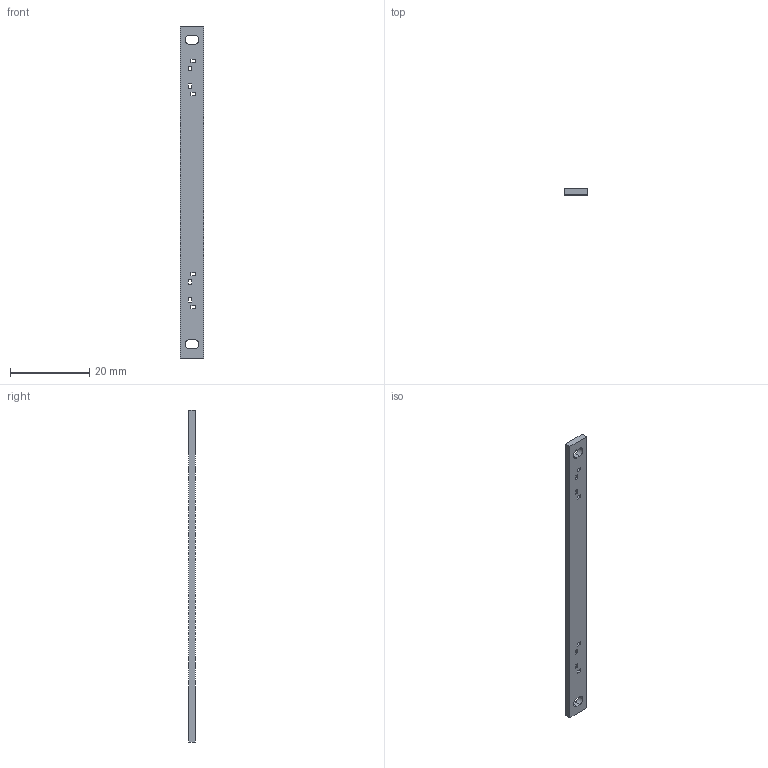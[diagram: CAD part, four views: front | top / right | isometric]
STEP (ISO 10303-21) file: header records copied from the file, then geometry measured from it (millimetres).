
FILE_DESCRIPTION(('Open CASCADE Model'),'2;1');
FILE_NAME('carrier_left_ptt_fr4_handwired','2026-09-04T19:55:25',( 'Author'),('Open CASCADE'),'Open CASCADE STEP processor 7.8', 'build123d','Unknown');
FILE_SCHEMA(('AUTOMOTIVE_DESIGN { 1 0 10303 214 1 1 1 1 }'));
Length unit declared in the file: millimetre
Products named in the file (1): carrier_left_ptt_fr4_handwired
Bounding box: 6 x 1.6 x 84 mm (x, y, z)
Volume: 772 mm3; surface area: 1334.7 mm2
Topology: 1 solids, 1 shells, 46 faces, 132 edges, 88 vertices
Faces by surface type: plane 42, cylinder 4
Entity records: 3115 total; most frequent: CARTESIAN_POINT 675, DIRECTION 354, ORIENTED_EDGE 264, PCURVE 264, DEFINITIONAL_REPRESENTATION 264, LINE 236, VECTOR 236, B_SPLINE_CURVE_WITH_KNOTS 144
